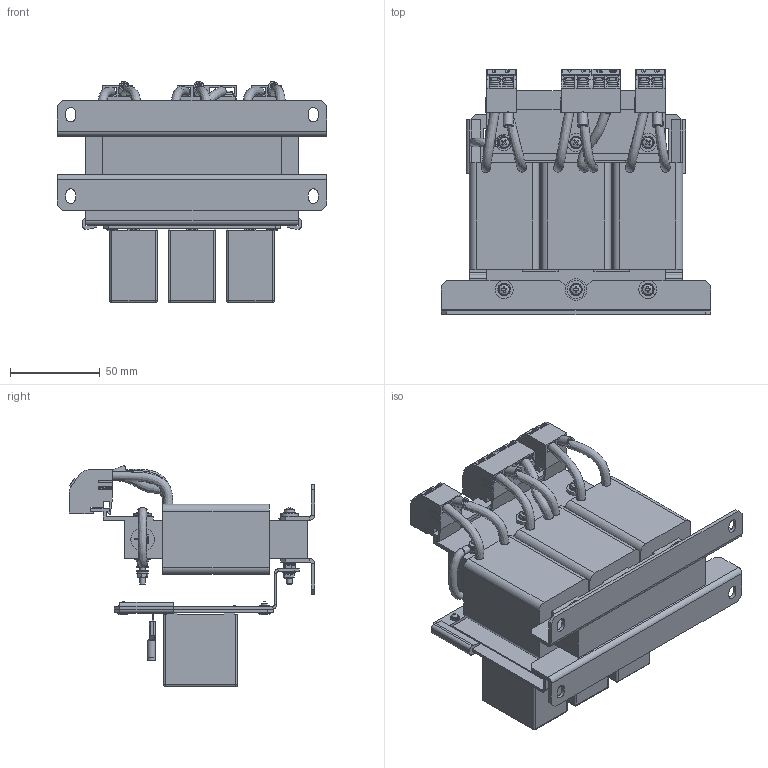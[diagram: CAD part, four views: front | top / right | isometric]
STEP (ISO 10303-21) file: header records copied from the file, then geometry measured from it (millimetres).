
FILE_DESCRIPTION(/* description */ (''),/* implementation_level */ '2;1');
FILE_NAME(/* name */ 'C:\Users\Erika.Jenzer\OneDrive - Schaffner EMV AG\BELLA\STEP FILES BELLA\FN\FN5420-5.9-88-E0XXT.stp',/* time_stamp */ '2021-07-08T08:23:19+02:00',/* author */ ('erika.jenzer'),/* organization */ (''),/* preprocessor_version */ 'ST-DEVELOPER v18.1',/* originating_system */ 'Autodesk Inventor 2020',/* authorisation */ '');
FILE_SCHEMA (('AUTOMOTIVE_DESIGN { 1 0 10303 214 3 1 1 }'));
Products named in the file (1): FN5420-5.9-88-E0XXT
Bounding box: 150 x 136.55 x 123.12 mm (x, y, z)
Volume: 576882.6 mm3; surface area: 159297.1 mm2
Topology: 1 solids, 80 shells, 3592 faces, 9592 edges, 6249 vertices
Faces by surface type: plane 2698, cylinder 599, bspline 113, cone 76, torus 56, sphere 50
Full cylindrical faces by diameter (mm): 0.01 x2, 1 x18, 1.2 x6, 1.8 x3, 2 x7, 2.3 x2, 2.7 x3, 3 x27, 3.1 x7, 3.2 x24, 3.3 x4, 3.4 x13, 3.5 x3, 3.6 x5, 3.8 x4, 4 x4, 4.1 x2, 4.2 x5, 4.3 x1, 4.5 x9, 4.62 x2, 4.8 x3, 5.2 x4, 5.4 x3, 5.7 x8, 6 x2, 6.5 x4, 7 x14, 9 x2, 10 x5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
Entity records: 123498 total; most frequent: CARTESIAN_POINT 30265, ORIENTED_EDGE 19168, DIRECTION 18521, EDGE_CURVE 9584, LINE 6557, VECTOR 6557, VERTEX_POINT 6249, AXIS2_PLACEMENT_3D 5982
